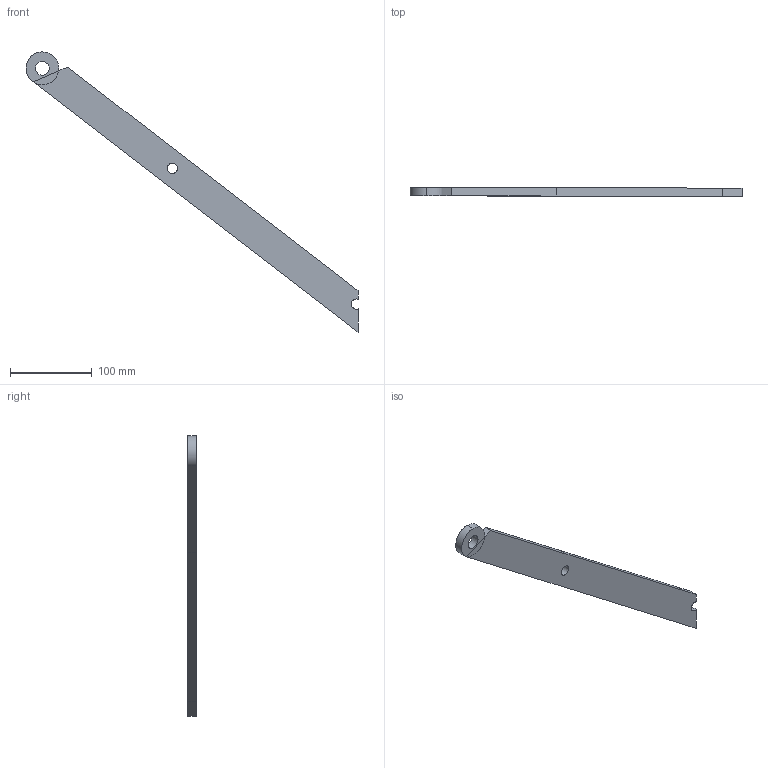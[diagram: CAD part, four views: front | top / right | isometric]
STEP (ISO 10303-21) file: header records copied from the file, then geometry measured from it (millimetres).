
FILE_DESCRIPTION(('Open CASCADE Model'),'2;1');
FILE_NAME('Open CASCADE Shape Model','2026-10-20T13:19:34',('Author'),( 'Open CASCADE'),'Open CASCADE STEP processor 7.9','Open CASCADE 7.9' ,'Unknown');
FILE_SCHEMA(('AUTOMOTIVE_DESIGN { 1 0 10303 214 1 1 1 1 }'));
Length unit declared in the file: millimetre
Products named in the file (1): Open CASCADE STEP translator 7.9 2
Bounding box: 405 x 10 x 341.69 mm (x, y, z)
Volume: 195555.9 mm3; surface area: 51107.8 mm2
Topology: 1 solids, 1 shells, 21 faces, 51 edges, 32 vertices
Faces by surface type: plane 15, cylinder 6
Full cylindrical faces by diameter (mm): 12.5 x1, 17 x1
Entity records: 1314 total; most frequent: CARTESIAN_POINT 275, DIRECTION 193, LINE 115, VECTOR 115, ORIENTED_EDGE 102, PCURVE 102, DEFINITIONAL_REPRESENTATION 102, EDGE_CURVE 51
